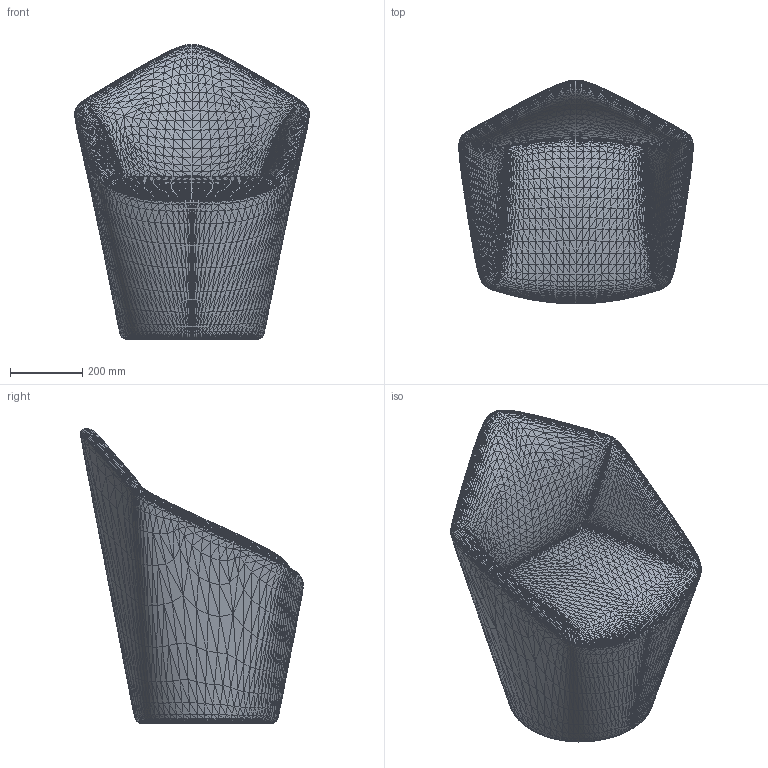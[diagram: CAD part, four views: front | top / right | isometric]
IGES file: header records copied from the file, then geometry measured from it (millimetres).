
Start section: SolidWorks IGES file using NURBS representation for surfaces
Global section: file name: G:\Recover\PRODUCTOS\30-PENTA\04-MODELADOS (PLANOS)\IGS\penta armchair.IGS; native system: SolidWorks 2009; preprocessor: SolidWorks 2009; author: RUBEN; date: 110705.175810; units: millimetre
Bounding box: 648.53 x 617 x 815.79 mm (x, y, z)
Surface area: 1834197.5 mm2 (no closed solid volume)
Topology: 0 solids, 0 shells, 24192 faces, 72576 edges, 72576 vertices
Faces by surface type: bspline 24192
